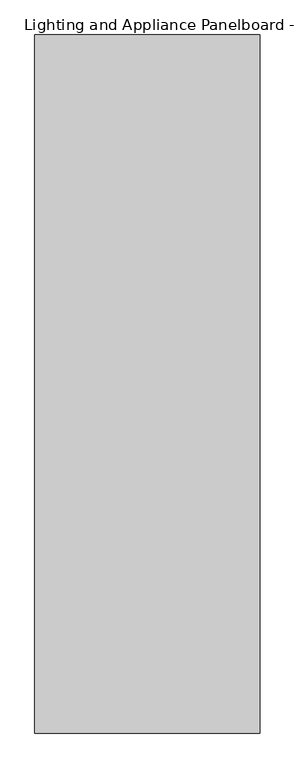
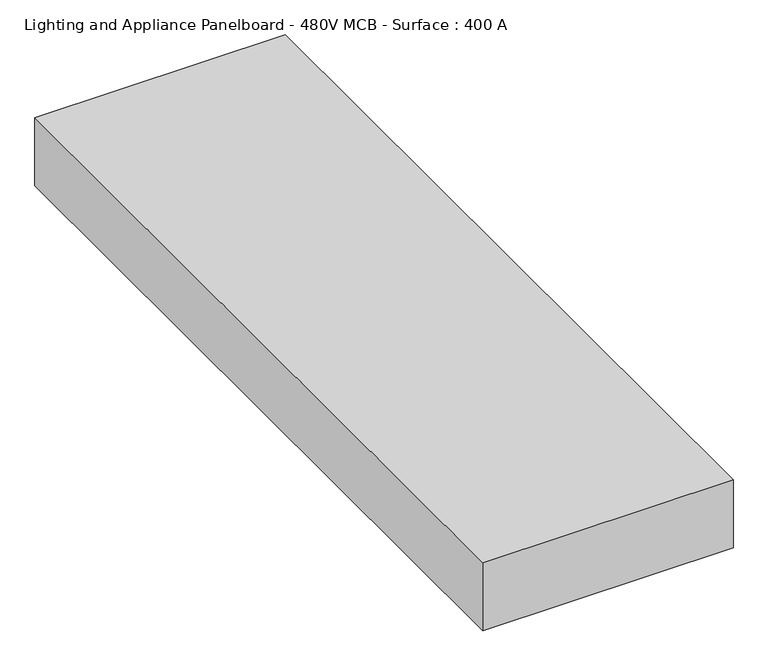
"""IFC4 building model written with IfcOpenShell, lengths in millimetres: proxy geometry, Lighting and Appliance Panelboard - 480V MCB - Surface : 400 A."""

import ifcopenshell
import ifcopenshell.guid

model = None  # the IFC model being written
_history = None  # IfcOwnerHistory: only IFC2X3 demands one
_inside = {}  # id of a spatial element -> (the spatial element, [elements in it])
_under = {}  # id of a project, library or spatial element -> (it, [spatial elements below it])
_declared = {}  # id of a project -> (the project, [libraries it declares])
_typed = {}  # id of a type object -> (the type object, [elements of that type])
_made_of = {}  # id of a material, layer set ... -> (it, [elements and type objects made of it])


def new_model(schema):
    """Start an empty IFC model of exactly this schema.

    Asked for "IFC4X3", IfcOpenShell would pick the latest addendum, in which some entities
    have other attributes; the version numbers below select the first issue.
    IFC2X3 requires an IfcOwnerHistory on every rooted entity: one is made here for all.
    """
    global model, _history
    if schema == "IFC4X3":
        model = ifcopenshell.file(schema_version=(4, 3, 0, 0))
    else:
        model = ifcopenshell.file(schema=schema)
    _inside.clear()
    _under.clear()
    _declared.clear()
    _typed.clear()
    _made_of.clear()
    _history = None
    if model.schema == "IFC2X3":
        org = make("IfcOrganization", Name="unknown")
        user = make(
            "IfcPersonAndOrganization",
            ThePerson=make("IfcPerson", FamilyName="unknown"),
            TheOrganization=org,
        )
        app = make(
            "IfcApplication",
            ApplicationDeveloper=org,
            Version="unknown",
            ApplicationFullName="unknown",
            ApplicationIdentifier="unknown",
        )
        _history = make(
            "IfcOwnerHistory",
            OwningUser=user,
            OwningApplication=app,
            ChangeAction="ADDED",
            CreationDate=0,
        )
    return model


def make(cls, **values):
    """One entity of the class cls with the attributes given. An attribute that is None is left unset."""
    return model.create_entity(
        cls, **{name: value for name, value in values.items() if value is not None}
    )


def rooted(cls, **values):
    """An entity with a GlobalId (a new one), such as an element, a storey or a relation."""
    return make(cls, GlobalId=ifcopenshell.guid.new(), OwnerHistory=_history, **values)


def si_unit(unit_type, name, prefix=None):
    """IfcSIUnit, for example si_unit("LENGTHUNIT", "METRE", prefix="MILLI")."""
    return make("IfcSIUnit", UnitType=unit_type, Prefix=prefix, Name=name)


def assignment(units):
    """IfcUnitAssignment: the units of a project."""
    return None if units is None else make("IfcUnitAssignment", Units=units)


def point(xyz):
    """IfcCartesianPoint."""
    return None if xyz is None else make("IfcCartesianPoint", Coordinates=xyz)


def direction(xyz):
    """IfcDirection."""
    return None if xyz is None else make("IfcDirection", DirectionRatios=xyz)


def frame(location, z_axis=None, x_axis=None):
    """IfcAxis2Placement3D, a coordinate frame: its origin and axes. An axis left out is left unset."""
    return make(
        "IfcAxis2Placement3D",
        Location=point(location),
        Axis=direction(z_axis),
        RefDirection=direction(x_axis),
    )


def origin():
    """The frame at (0, 0, 0) with its axes left unset."""
    return frame((0.0, 0.0, 0.0))


def origin_with_axes():
    """The frame at (0, 0, 0) with the z axis (0, 0, 1) and the x axis (1, 0, 0) written out."""
    return frame((0.0, 0.0, 0.0), z_axis=(0.0, 0.0, 1.0), x_axis=(1.0, 0.0, 0.0))


def place(relative_to, where):
    """IfcLocalPlacement: puts the frame where relative to a parent placement (None: the world)."""
    return make(
        "IfcLocalPlacement", PlacementRelTo=relative_to, RelativePlacement=where
    )


def context(
    kind, dimensions, precision=None, world=None, true_north=None, identifier=None
):
    """IfcGeometricRepresentationContext, for example the 3D "Model" context."""
    return make(
        "IfcGeometricRepresentationContext",
        ContextIdentifier=identifier,
        ContextType=kind,
        CoordinateSpaceDimension=dimensions,
        Precision=precision,
        WorldCoordinateSystem=world,
        TrueNorth=true_north,
    )


def project(units=None, contexts=None):
    """IfcProject with its units and contexts."""
    return rooted(
        "IfcProject",
        Name="project",
        RepresentationContexts=contexts,
        UnitsInContext=assignment(units),
    )


def spatial(cls, under=None, at=None, **own):
    """A site, building, storey or space (cls), placed at a placement, below another one or the project."""
    s = rooted(cls, ObjectPlacement=at, **own)
    if under is not None:
        _under.setdefault(under.id(), (under, []))[1].append(s)
    return s


def polyline(points):
    """IfcPolyline through the points."""
    return make("IfcPolyline", Points=[point(p) for p in points])


def outline(outer, holes=None, kind="AREA"):
    """IfcArbitraryClosedProfileDef: a profile drawn as a closed curve; with holes, ...WithVoids."""
    if holes is None:
        return make("IfcArbitraryClosedProfileDef", ProfileType=kind, OuterCurve=outer)
    return make(
        "IfcArbitraryProfileDefWithVoids",
        ProfileType=kind,
        OuterCurve=outer,
        InnerCurves=holes,
    )


def extrude(swept, where, along, depth):
    """IfcExtrudedAreaSolid: the profile swept, set in the frame where, extruded along a direction by depth."""
    return make(
        "IfcExtrudedAreaSolid",
        SweptArea=swept,
        Position=where,
        ExtrudedDirection=direction(along),
        Depth=depth,
    )


def shape(context_of_items, identifier, shape_type, items):
    """IfcShapeRepresentation: the items that make up one representation, for example the "Body"."""
    return make(
        "IfcShapeRepresentation",
        ContextOfItems=context_of_items,
        RepresentationIdentifier=identifier,
        RepresentationType=shape_type,
        Items=items,
    )


def source(mapping_origin, context_of_items, identifier, shape_type, items):
    """IfcRepresentationMap: a shape defined once, which mapped items show again and again."""
    return make(
        "IfcRepresentationMap",
        MappingOrigin=mapping_origin,
        MappedRepresentation=shape(context_of_items, identifier, shape_type, items),
    )


def transform(
    local_origin,
    x_axis=None,
    y_axis=None,
    z_axis=None,
    scale=None,
    scale2=None,
    scale3=None,
    uniform=True,
):
    """IfcCartesianTransformationOperator3D, or its non-uniform kind. x_axis, y_axis, z_axis: its Axis1, 2, 3."""
    if uniform:
        return make(
            "IfcCartesianTransformationOperator3D",
            Axis1=direction(x_axis),
            Axis2=direction(y_axis),
            LocalOrigin=point(local_origin),
            Scale=scale,
            Axis3=direction(z_axis),
        )
    return make(
        "IfcCartesianTransformationOperator3DnonUniform",
        Axis1=direction(x_axis),
        Axis2=direction(y_axis),
        LocalOrigin=point(local_origin),
        Scale=scale,
        Axis3=direction(z_axis),
        Scale2=scale2,
        Scale3=scale3,
    )


def mapped(mapping_source, mapping_target):
    """IfcMappedItem: shows the shape of a source again, moved by a transform."""
    return make(
        "IfcMappedItem", MappingSource=mapping_source, MappingTarget=mapping_target
    )


def made_of(thing, what):
    """Note that an element or type object is made of a material, layer set ...; save() writes the relation."""
    if what is not None:
        _made_of.setdefault(what.id(), (what, []))[1].append(thing)
    return thing


def element(
    cls,
    number,
    at=None,
    inside=None,
    cuts=None,
    type_object=None,
    material=None,
    context=None,
    identifier="Body",
    shape_type=None,
    held_by="IfcProductDefinitionShape",
    body=None,
    shapes=None,
    **own,
):
    """One element of the class cls, such as IfcWall. Its Tag is "e" and its number.

    at: its placement. inside: the storey or other place that contains it. cuts: it is an
    opening in that element (IfcRelVoidsElement). A single representation is given by context,
    identifier, shape_type and body (its items); several are given by shapes. held_by: the class
    of the entity that holds the representations. save() writes the other relations.
    """
    e = rooted(cls, Tag="e%d" % number, ObjectPlacement=at, **own)
    if body is not None:
        shapes = [shape(context, identifier, shape_type, body)]
    if shapes is not None:
        e.Representation = make(held_by, Representations=shapes)
    if inside is not None:
        _inside.setdefault(inside.id(), (inside, []))[1].append(e)
    if cuts is not None:
        rooted(
            "IfcRelVoidsElement", RelatingBuildingElement=cuts, RelatedOpeningElement=e
        )
    if type_object is not None:
        _typed.setdefault(type_object.id(), (type_object, []))[1].append(e)
    return made_of(e, material)


def aggregate(whole, parts):
    """IfcRelAggregates: a whole, such as a stair, and the parts it consists of."""
    return rooted("IfcRelAggregates", RelatingObject=whole, RelatedObjects=parts)


def save(model, path):
    """Write the relations noted so far, then the file.

    IfcRelAggregates (storeys below a building ...), IfcRelContainedInSpatialStructure (elements
    in a storey), IfcRelDefinesByType, IfcRelAssociatesMaterial and IfcRelDeclares: one each for
    every whole, place, type object, material and project.
    """
    for whole, parts in _under.values():
        aggregate(whole, parts)
    for where, things in _inside.values():
        rooted(
            "IfcRelContainedInSpatialStructure",
            RelatedElements=things,
            RelatingStructure=where,
        )
    for kind, things in _typed.values():
        rooted("IfcRelDefinesByType", RelatedObjects=things, RelatingType=kind)
    for what, things in _made_of.values():
        rooted("IfcRelAssociatesMaterial", RelatedObjects=things, RelatingMaterial=what)
    for by, libraries in _declared.values():
        rooted("IfcRelDeclares", RelatingContext=by, RelatedDefinitions=libraries)
    model.write(path)


def lighting_and_appliance_panelboard_480v_mcb_surface_400_a_88b687c3(model_context):
    return source(origin(), model_context, "Body", "SweptSolid", [
        extrude(outline(polyline([(355.6, 304.8), (355.6, -1270.0), (-152.4, -1270.0), (-152.4, 304.8), (355.6, 304.8)])), origin_with_axes(), (0.0, 0.0, 1.0), 146.05),
    ])


if __name__ == "__main__":
    model = new_model("IFC4")
    model_context = context("Model", 3, world=origin())
    ifc_project = project(units=[si_unit("LENGTHUNIT", "METRE", prefix="MILLI")], contexts=[model_context])
    site = spatial("IfcSite", under=ifc_project)
    building = spatial("IfcBuilding", under=site)
    placement = place(None, origin())
    lighting_and_appliance_panelboard_480v_mcb_surface_400_a_shape = lighting_and_appliance_panelboard_480v_mcb_surface_400_a_88b687c3(model_context)
    element("IfcBuildingElementProxy", 1, Name="Lighting and Appliance Panelboard - 480V MCB - Surface : 400 A", ObjectType="Lighting and Appliance Panelboard - 480V MCB - Surface : 400 A", at=placement, inside=building, context=model_context, shape_type="MappedRepresentation", body=[
        mapped(lighting_and_appliance_panelboard_480v_mcb_surface_400_a_shape, transform((0.0, 0.0, 0.0), x_axis=(1.0, 0.0, 0.0), y_axis=(0.0, 1.0, 0.0), z_axis=(0.0, 0.0, 1.0))),
    ])
    save(model, "model.ifc")
